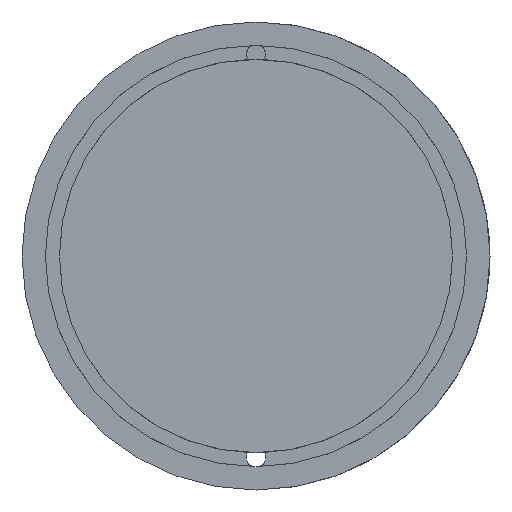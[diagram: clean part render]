
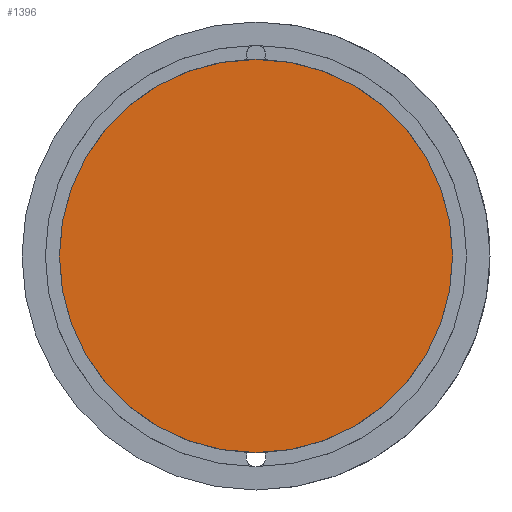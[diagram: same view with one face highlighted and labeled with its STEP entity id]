
A CAD part, front view. The second image highlights one B-rep face of the part: STEP entity #1396.
In plain terms, the highlighted planar face has unit normal (0, -1, 0).
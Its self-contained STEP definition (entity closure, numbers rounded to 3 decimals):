
#197 = CARTESIAN_POINT ( 'NONE',  ( 0., 0., 0. ) ) ;
#205 = EDGE_CURVE ( 'NONE', #6130, #6522, #2784, .T. ) ;
#913 = FACE_OUTER_BOUND ( 'NONE', #4752, .T. ) ;
#985 = AXIS2_PLACEMENT_3D ( 'NONE', #197, #5229, #2766 ) ;
#1227 = DIRECTION ( 'NONE',  ( 0., 0., -1. ) ) ;
#1396 = ADVANCED_FACE ( 'NONE', ( #913 ), #3928, .T. ) ;
#1509 = DIRECTION ( 'NONE',  ( 0., -1., 0. ) ) ;
#2625 = ORIENTED_EDGE ( 'NONE', *, *, #205, .T. ) ;
#2766 = DIRECTION ( 'NONE',  ( 0., 0., -1. ) ) ;
#2784 = CIRCLE ( 'NONE', #4620, 42. ) ;
#3271 = DIRECTION ( 'NONE',  ( 0., -1., 0. ) ) ;
#3336 = CARTESIAN_POINT ( 'NONE',  ( 0., 0., 42. ) ) ;
#3455 = EDGE_CURVE ( 'NONE', #6522, #6130, #4055, .T. ) ;
#3637 = ORIENTED_EDGE ( 'NONE', *, *, #3455, .T. ) ;
#3928 = PLANE ( 'NONE',  #5000 ) ;
#4055 = CIRCLE ( 'NONE', #985, 42. ) ;
#4121 = CARTESIAN_POINT ( 'NONE',  ( 0., 0., -42. ) ) ;
#4181 = CARTESIAN_POINT ( 'NONE',  ( 0., 0., 0. ) ) ;
#4513 = DIRECTION ( 'NONE',  ( 0., 0., -1. ) ) ;
#4620 = AXIS2_PLACEMENT_3D ( 'NONE', #5472, #1509, #4513 ) ;
#4752 = EDGE_LOOP ( 'NONE', ( #2625, #3637 ) ) ;
#5000 = AXIS2_PLACEMENT_3D ( 'NONE', #4181, #3271, #1227 ) ;
#5229 = DIRECTION ( 'NONE',  ( 0., -1., 0. ) ) ;
#5472 = CARTESIAN_POINT ( 'NONE',  ( 0., 0., 0. ) ) ;
#6130 = VERTEX_POINT ( 'NONE', #4121 ) ;
#6522 = VERTEX_POINT ( 'NONE', #3336 ) ;
